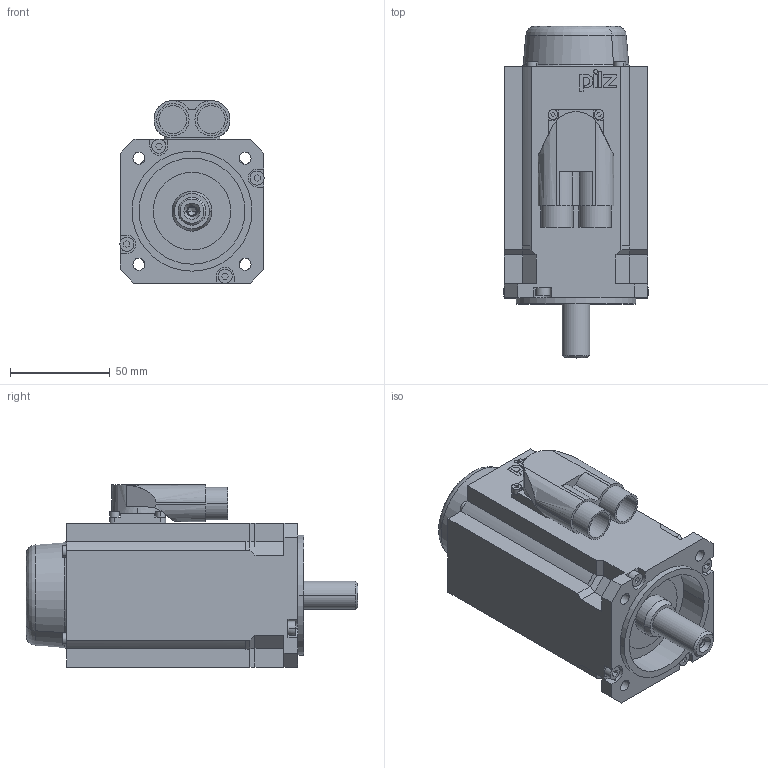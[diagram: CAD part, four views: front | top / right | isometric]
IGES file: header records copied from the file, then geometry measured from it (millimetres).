
Start section:  PTC IGES file: 2031352
Global section: file name: 2031352; native system: Creo Parametric by PTC Inc.; preprocessor: 2019292; author: s.mayer; organization: Unknown; date: 20210827.071659; units: millimetre
Bounding box: 72.04 x 166 x 91.22 mm (x, y, z)
Surface area: 58655.9 mm2 (no closed solid volume)
Topology: 0 solids, 0 shells, 317 faces, 1660 edges, 1658 vertices
Faces by surface type: bspline 212, revolution 105
